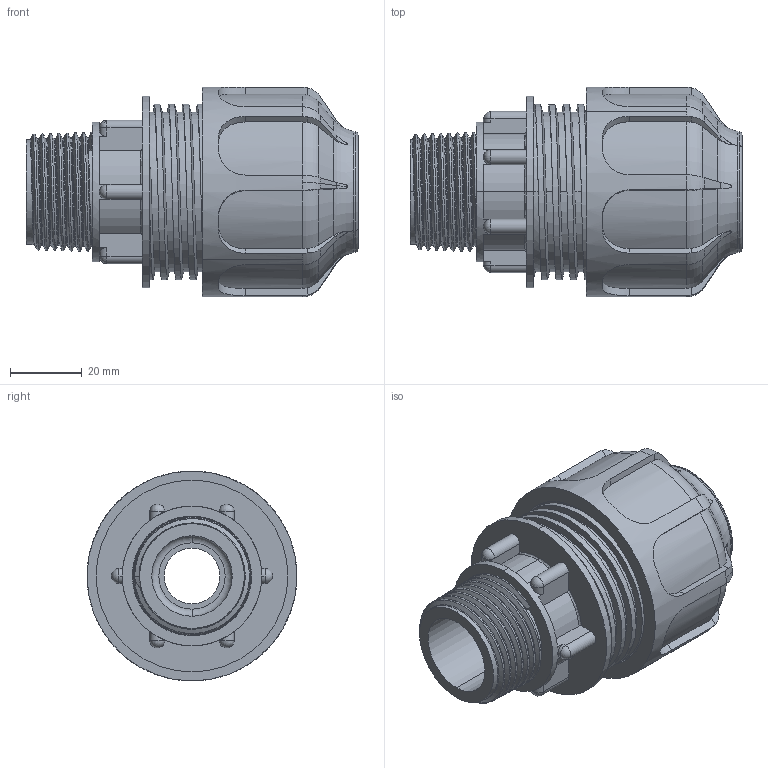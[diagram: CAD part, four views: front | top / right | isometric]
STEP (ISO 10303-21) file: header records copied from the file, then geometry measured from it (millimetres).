
FILE_DESCRIPTION (( 'STEP AP203' ), '1' );
FILE_NAME ('02004.0720.STEP', '2017-05-22T13:58:56', ( '' ), ( '' ), 'SwSTEP 2.0', 'SolidWorks 2011', '' );
FILE_SCHEMA (( 'CONFIG_CONTROL_DESIGN' ));
Length unit declared in the file: millimetre
Products named in the file (3): 02004.0720; 01711_2020; 01770_0720
Assembly tree (2 placements, depth 2):
  02004.0720
    01711_2020
    01770_0720
Bounding box: 92.69 x 58.6 x 58.6 mm (x, y, z)
Volume: 67548.4 mm3; surface area: 52958.6 mm2
Topology: 2 solids, 2 shells, 429 faces, 1398 edges, 972 vertices
Faces by surface type: cylinder 135, plane 131, torus 101, cone 45, bspline 11, sphere 6
Entity records: 30740 total; most frequent: CARTESIAN_POINT 19232, ORIENTED_EDGE 2776, DIRECTION 1899, EDGE_CURVE 1388, VERTEX_POINT 970, AXIS2_PLACEMENT_3D 763, B_SPLINE_CURVE_WITH_KNOTS 600, EDGE_LOOP 440
